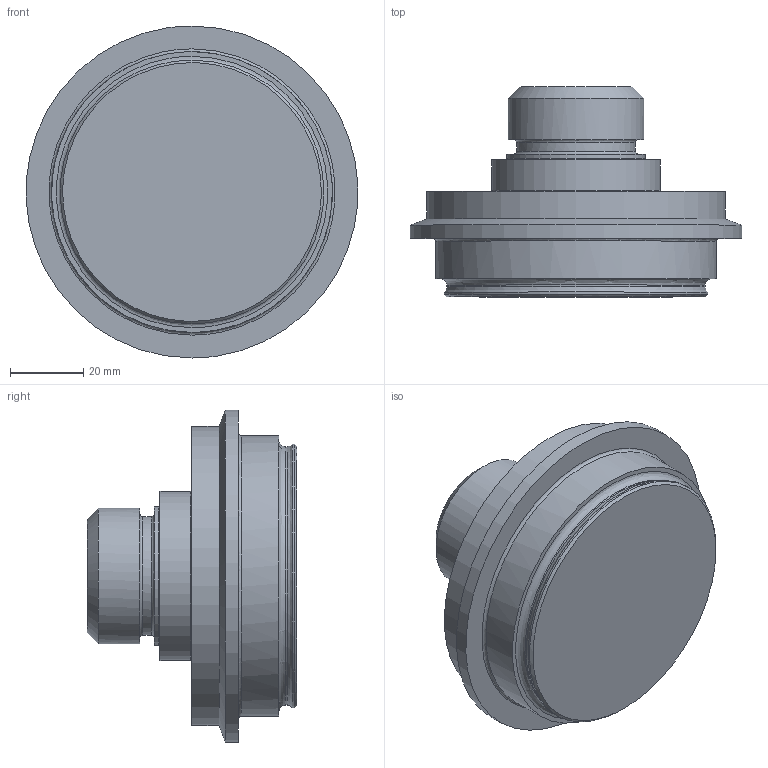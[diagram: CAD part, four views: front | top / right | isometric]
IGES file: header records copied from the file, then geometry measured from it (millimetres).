
Global section: file name: 122306 2; native system: Autodesk Inventor 2020; preprocessor: unknown; author: H7M44K; date: 20210423.112053; units: inch
Bounding box: 90.77 x 57.45 x 90.91 mm (x, y, z)
Volume: 178888.5 mm3; surface area: 23410.7 mm2
Topology: 1 solids, 1 shells, 27 faces, 71 edges, 52 vertices
Faces by surface type: bspline 27
